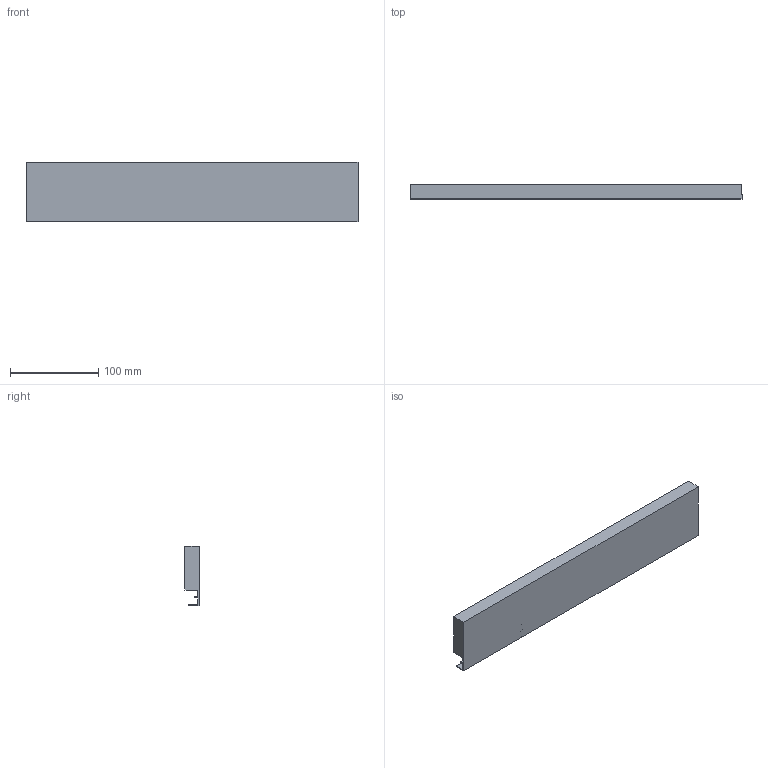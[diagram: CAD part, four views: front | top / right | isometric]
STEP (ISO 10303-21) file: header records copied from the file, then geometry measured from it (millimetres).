
FILE_DESCRIPTION (( 'STEP AP214' ), '1' );
FILE_NAME ('Innenschub-Blendenprofil_KAB500_S16.step', '2010-09-23T12:26:48', ( 'grass' ), ( '' ), 'SwSTEP 2.0', 'SolidWorks 2010', '' );
FILE_SCHEMA (( 'AUTOMOTIVE_DESIGN' ));
Length unit declared in the file: millimetre
Products named in the file (1): Innenschub-Blendenprofil_KAB500_S16
Bounding box: 377 x 15.9 x 67.6 mm (x, y, z)
Volume: 312572.2 mm3; surface area: 75660.4 mm2
Topology: 1 solids, 1 shells, 17 faces, 42 edges, 28 vertices
Faces by surface type: plane 15, cylinder 2
Entity records: 534 total; most frequent: CARTESIAN_POINT 88, ORIENTED_EDGE 84, DIRECTION 82, EDGE_CURVE 42, VECTOR 38, LINE 38, VERTEX_POINT 28, AXIS2_PLACEMENT_3D 22
